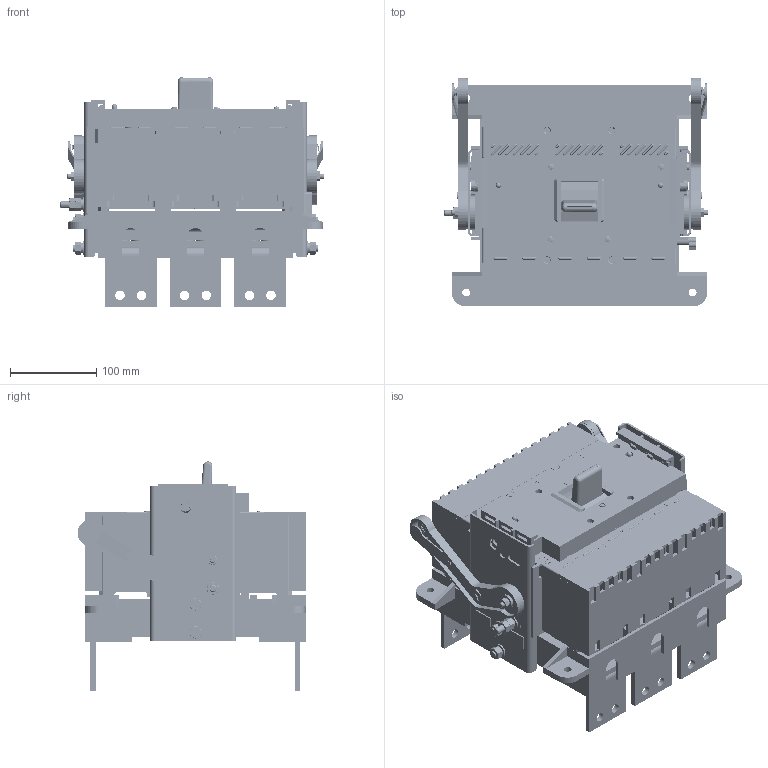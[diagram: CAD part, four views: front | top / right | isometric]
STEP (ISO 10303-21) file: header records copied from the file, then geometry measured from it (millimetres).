
FILE_DESCRIPTION (( 'STEP AP203' ), '1' );
FILE_NAME ('臍57-39 桽桽40.STEP', '2016-09-30T08:20:51', ( 'admin' ), ( '' ), 'SwSTEP 2.0', 'SolidWorks 2012', '' );
FILE_SCHEMA (( 'CONFIG_CONTROL_DESIGN' ));
Length unit declared in the file: millimetre
Products named in the file (1): 臍57-39 桽桽40
Bounding box: 305.2 x 264.99 x 265.57 mm (x, y, z)
Volume: 5498550.8 mm3; surface area: 1356741 mm2
Topology: 94 solids, 97 shells, 4937 faces, 13137 edges, 8495 vertices
Faces by surface type: plane 2894, cylinder 1444, cone 234, bspline 135, sphere 118, torus 112
Entity records: 166314 total; most frequent: CARTESIAN_POINT 41482, ORIENTED_EDGE 26274, DIRECTION 25576, EDGE_CURVE 13137, VECTOR 8774, LINE 8774, VERTEX_POINT 8495, AXIS2_PLACEMENT_3D 8401
